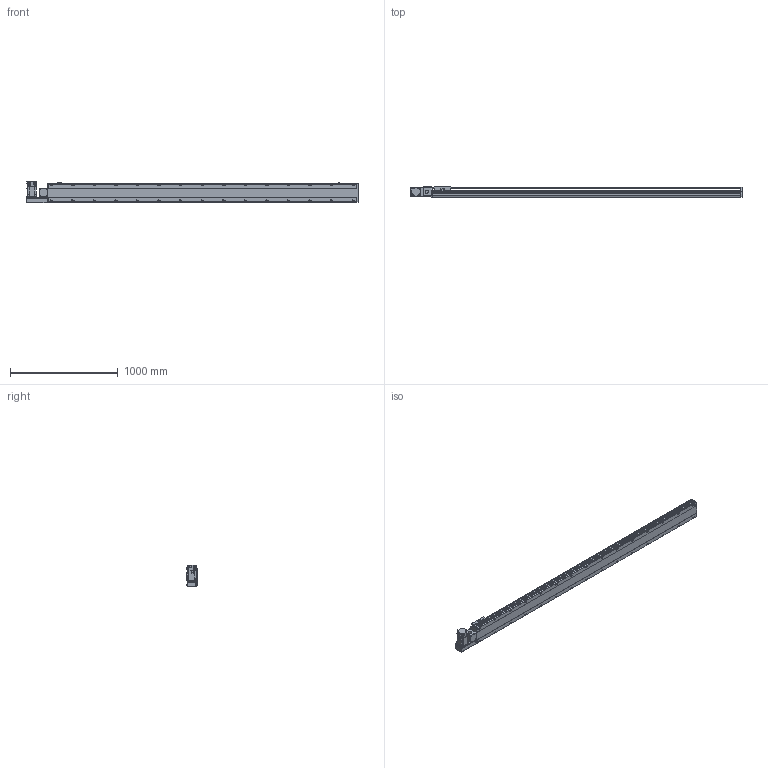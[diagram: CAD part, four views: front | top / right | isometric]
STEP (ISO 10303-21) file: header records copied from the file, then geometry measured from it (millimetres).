
FILE_DESCRIPTION( ( 'STEP AP214' ), '1' );
FILE_NAME( 'x:/temp/worker_1/temp/exporttempdir_5824_201_HaKeA/format_0/PBS170-P40-S2600-L-T75-C1-N(0).stp', '2022-06-07T06:58:55', ( 'License CC BY-ND 4.0' ), ( 'CADENAS' ), ' ', 'PARTsolutions', ' ' );
FILE_SCHEMA( ( 'AUTOMOTIVE_DESIGN { 1 0 10303 214 1 1 1 1 }' ) );
Length unit declared in the file: millimetre
Products named in the file (7): PBS170-P40-S2600-L-T75-C1-N(0); _PBS170-S2600()_body; _PBS170T-L_motors; _T75-p1; _PBS170_sliser; _PBS170_plant; _PBS170_sensor
Assembly tree (8 placements, depth 2):
  PBS170-P40-S2600-L-T75-C1-N(0)
    _PBS170-S2600()_body
    _PBS170T-L_motors
    _T75-p1
    _PBS170_sliser
    _PBS170_plant
    _PBS170_sensor  x3
Bounding box: 3078 x 97 x 197.3 mm (x, y, z)
Volume: 22393145.3 mm3; surface area: 2814760.4 mm2
Topology: 8 solids, 8 shells, 1194 faces, 3155 edges, 2056 vertices
Faces by surface type: plane 729, cylinder 395, cone 60, sphere 8, torus 2
Full cylindrical faces by diameter (mm): 3.242 x4, 4 x2, 4.4 x4, 4.5 x6, 4.917 x4, 6 x9, 6.647 x38, 7 x2, 7.5 x4, 8 x8, 8.5 x30, 10 x4, 10.5 x30, 11 x2, 30 x2, 40 x1, 70 x1
Entity records: 44234 total; most frequent: CARTESIAN_POINT 7397, DIRECTION 5790, ORIENTED_EDGE 5448, EDGE_CURVE 2724, AXIS2_PLACEMENT_3D 2047, VERTEX_POINT 1898, LINE 1696, VECTOR 1696
